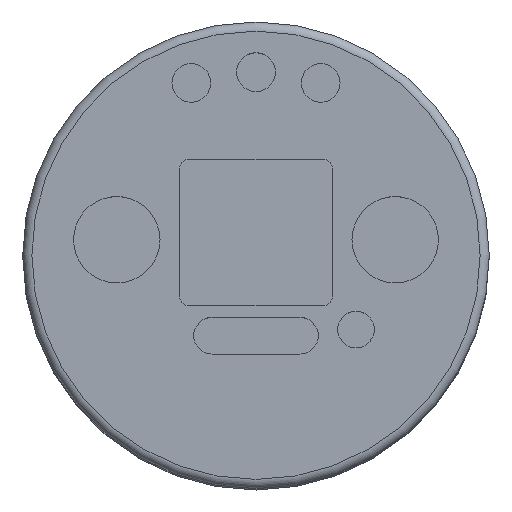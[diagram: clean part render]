
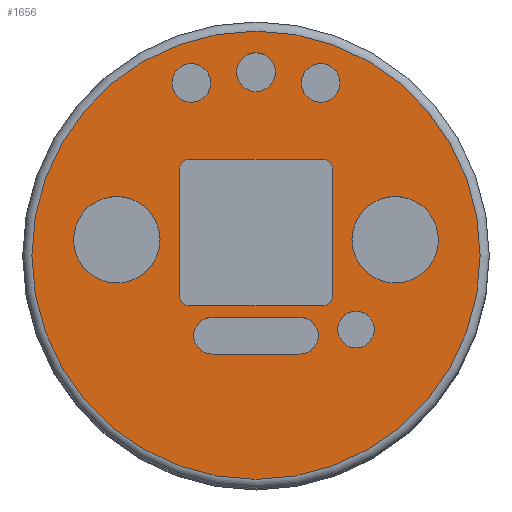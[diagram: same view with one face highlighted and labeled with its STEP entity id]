
A CAD part, top view. The second image highlights one B-rep face of the part: STEP entity #1656.
In plain terms, the highlighted planar face has unit normal (0, 0, 1).
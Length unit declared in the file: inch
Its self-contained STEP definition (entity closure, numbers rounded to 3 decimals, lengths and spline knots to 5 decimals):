
#38=FACE_BOUND('',#314,.T.);
#39=FACE_BOUND('',#315,.T.);
#40=FACE_BOUND('',#316,.T.);
#41=FACE_BOUND('',#317,.T.);
#42=FACE_BOUND('',#318,.T.);
#43=FACE_BOUND('',#319,.T.);
#44=FACE_BOUND('',#320,.T.);
#45=FACE_BOUND('',#321,.T.);
#96=PLANE('',#1825);
#199=FACE_OUTER_BOUND('',#313,.T.);
#313=EDGE_LOOP('',(#1455));
#314=EDGE_LOOP('',(#1456));
#315=EDGE_LOOP('',(#1457));
#316=EDGE_LOOP('',(#1458));
#317=EDGE_LOOP('',(#1459,#1460,#1461,#1462));
#318=EDGE_LOOP('',(#1463));
#319=EDGE_LOOP('',(#1464));
#320=EDGE_LOOP('',(#1465,#1466,#1467,#1468,#1469,#1470,#1471,#1472));
#321=EDGE_LOOP('',(#1473));
#376=CIRCLE('',#1792,0.1475);
#378=CIRCLE('',#1796,0.1475);
#381=CIRCLE('',#1801,0.03125);
#385=CIRCLE('',#1808,0.03125);
#386=CIRCLE('',#1810,0.03125);
#387=CIRCLE('',#1813,0.03125);
#393=CIRCLE('',#1823,0.76475);
#395=CIRCLE('',#1826,0.06603);
#396=CIRCLE('',#1827,0.0625);
#397=CIRCLE('',#1828,0.0625);
#398=CIRCLE('',#1829,0.0625);
#399=CIRCLE('',#1830,0.06603);
#400=CIRCLE('',#1831,0.06625);
#547=LINE('',#4349,#685);
#552=LINE('',#4363,#690);
#556=LINE('',#4393,#694);
#557=LINE('',#4396,#695);
#558=LINE('',#4401,#696);
#559=LINE('',#4402,#697);
#685=VECTOR('',#2210,0.3937);
#690=VECTOR('',#2225,0.3937);
#694=VECTOR('',#2261,0.3937);
#695=VECTOR('',#2264,0.3937);
#696=VECTOR('',#2269,0.3937);
#697=VECTOR('',#2270,0.3937);
#813=VERTEX_POINT('',#4311);
#815=VERTEX_POINT('',#4318);
#819=VERTEX_POINT('',#4328);
#820=VERTEX_POINT('',#4330);
#827=VERTEX_POINT('',#4348);
#828=VERTEX_POINT('',#4352);
#829=VERTEX_POINT('',#4356);
#830=VERTEX_POINT('',#4358);
#831=VERTEX_POINT('',#4362);
#832=VERTEX_POINT('',#4366);
#837=VERTEX_POINT('',#4383);
#838=VERTEX_POINT('',#4387);
#839=VERTEX_POINT('',#4389);
#840=VERTEX_POINT('',#4390);
#841=VERTEX_POINT('',#4392);
#842=VERTEX_POINT('',#4394);
#843=VERTEX_POINT('',#4397);
#844=VERTEX_POINT('',#4399);
#845=VERTEX_POINT('',#4403);
#1016=EDGE_CURVE('',#813,#813,#376,.T.);
#1019=EDGE_CURVE('',#815,#815,#378,.T.);
#1024=EDGE_CURVE('',#819,#820,#381,.T.);
#1033=EDGE_CURVE('',#827,#820,#547,.T.);
#1035=EDGE_CURVE('',#827,#828,#385,.T.);
#1038=EDGE_CURVE('',#829,#830,#386,.T.);
#1040=EDGE_CURVE('',#831,#830,#552,.T.);
#1042=EDGE_CURVE('',#831,#832,#387,.T.);
#1050=EDGE_CURVE('',#837,#837,#393,.T.);
#1052=EDGE_CURVE('',#838,#838,#395,.T.);
#1053=EDGE_CURVE('',#839,#840,#396,.T.);
#1054=EDGE_CURVE('',#840,#841,#556,.T.);
#1055=EDGE_CURVE('',#841,#842,#397,.T.);
#1056=EDGE_CURVE('',#842,#839,#557,.T.);
#1057=EDGE_CURVE('',#843,#843,#398,.T.);
#1058=EDGE_CURVE('',#844,#844,#399,.T.);
#1059=EDGE_CURVE('',#829,#828,#558,.T.);
#1060=EDGE_CURVE('',#819,#832,#559,.T.);
#1061=EDGE_CURVE('',#845,#845,#400,.T.);
#1455=ORIENTED_EDGE('',*,*,#1050,.F.);
#1456=ORIENTED_EDGE('',*,*,#1016,.T.);
#1457=ORIENTED_EDGE('',*,*,#1019,.T.);
#1458=ORIENTED_EDGE('',*,*,#1052,.T.);
#1459=ORIENTED_EDGE('',*,*,#1053,.T.);
#1460=ORIENTED_EDGE('',*,*,#1054,.T.);
#1461=ORIENTED_EDGE('',*,*,#1055,.T.);
#1462=ORIENTED_EDGE('',*,*,#1056,.T.);
#1463=ORIENTED_EDGE('',*,*,#1057,.T.);
#1464=ORIENTED_EDGE('',*,*,#1058,.T.);
#1465=ORIENTED_EDGE('',*,*,#1059,.T.);
#1466=ORIENTED_EDGE('',*,*,#1035,.F.);
#1467=ORIENTED_EDGE('',*,*,#1033,.T.);
#1468=ORIENTED_EDGE('',*,*,#1024,.F.);
#1469=ORIENTED_EDGE('',*,*,#1060,.T.);
#1470=ORIENTED_EDGE('',*,*,#1042,.F.);
#1471=ORIENTED_EDGE('',*,*,#1040,.T.);
#1472=ORIENTED_EDGE('',*,*,#1038,.F.);
#1473=ORIENTED_EDGE('',*,*,#1061,.T.);
#1656=ADVANCED_FACE('',(#199,#38,#39,#40,#41,#42,#43,#44,#45),#96,.T.);
#1792=AXIS2_PLACEMENT_3D('',#4312,#2172,#2173);
#1796=AXIS2_PLACEMENT_3D('',#4319,#2181,#2182);
#1801=AXIS2_PLACEMENT_3D('',#4331,#2193,#2194);
#1808=AXIS2_PLACEMENT_3D('',#4353,#2214,#2215);
#1810=AXIS2_PLACEMENT_3D('',#4359,#2220,#2221);
#1813=AXIS2_PLACEMENT_3D('',#4367,#2229,#2230);
#1823=AXIS2_PLACEMENT_3D('',#4384,#2251,#2252);
#1825=AXIS2_PLACEMENT_3D('',#4386,#2255,#2256);
#1826=AXIS2_PLACEMENT_3D('',#4388,#2257,#2258);
#1827=AXIS2_PLACEMENT_3D('',#4391,#2259,#2260);
#1828=AXIS2_PLACEMENT_3D('',#4395,#2262,#2263);
#1829=AXIS2_PLACEMENT_3D('',#4398,#2265,#2266);
#1830=AXIS2_PLACEMENT_3D('',#4400,#2267,#2268);
#1831=AXIS2_PLACEMENT_3D('',#4404,#2271,#2272);
#2172=DIRECTION('center_axis',(0.,0.,-1.));
#2173=DIRECTION('ref_axis',(-1.,0.,0.));
#2181=DIRECTION('center_axis',(0.,0.,-1.));
#2182=DIRECTION('ref_axis',(-1.,0.,0.));
#2193=DIRECTION('center_axis',(0.,0.,1.));
#2194=DIRECTION('ref_axis',(-0.707,-0.707,0.));
#2210=DIRECTION('',(-1.,0.,0.));
#2214=DIRECTION('center_axis',(0.,0.,1.));
#2215=DIRECTION('ref_axis',(0.707,-0.707,0.));
#2220=DIRECTION('center_axis',(0.,0.,1.));
#2221=DIRECTION('ref_axis',(0.707,0.707,0.));
#2225=DIRECTION('',(1.,0.,0.));
#2229=DIRECTION('center_axis',(0.,0.,1.));
#2230=DIRECTION('ref_axis',(-0.707,0.707,0.));
#2251=DIRECTION('center_axis',(0.,0.,-1.));
#2252=DIRECTION('ref_axis',(1.,0.,0.));
#2255=DIRECTION('center_axis',(0.,0.,1.));
#2256=DIRECTION('ref_axis',(1.,0.,0.));
#2257=DIRECTION('center_axis',(0.,0.,-1.));
#2258=DIRECTION('ref_axis',(1.,0.,0.));
#2259=DIRECTION('center_axis',(0.,0.,-1.));
#2260=DIRECTION('ref_axis',(0.,1.,0.));
#2261=DIRECTION('',(1.,0.,0.));
#2262=DIRECTION('center_axis',(0.,0.,-1.));
#2263=DIRECTION('ref_axis',(0.,-1.,0.));
#2264=DIRECTION('',(-1.,0.,0.));
#2265=DIRECTION('center_axis',(0.,0.,-1.));
#2266=DIRECTION('ref_axis',(1.,0.,0.));
#2267=DIRECTION('center_axis',(0.,0.,-1.));
#2268=DIRECTION('ref_axis',(1.,0.,0.));
#2269=DIRECTION('',(0.,-1.,0.));
#2270=DIRECTION('',(0.,1.,0.));
#2271=DIRECTION('center_axis',(0.,0.,-1.));
#2272=DIRECTION('ref_axis',(1.,0.,0.));
#4311=CARTESIAN_POINT('',(-0.3275,0.053,0.65));
#4312=CARTESIAN_POINT('Origin',(-0.475,0.053,0.65));
#4318=CARTESIAN_POINT('',(0.6225,0.053,0.65));
#4319=CARTESIAN_POINT('Origin',(0.475,0.053,0.65));
#4328=CARTESIAN_POINT('',(-0.26,-0.14075,0.65));
#4330=CARTESIAN_POINT('',(-0.22875,-0.172,0.65));
#4331=CARTESIAN_POINT('Origin',(-0.22875,-0.14075,0.65));
#4348=CARTESIAN_POINT('',(0.22875,-0.172,0.65));
#4349=CARTESIAN_POINT('',(-0.26,-0.172,0.65));
#4352=CARTESIAN_POINT('',(0.26,-0.14075,0.65));
#4353=CARTESIAN_POINT('Origin',(0.22875,-0.14075,0.65));
#4356=CARTESIAN_POINT('',(0.26,0.29675,0.65));
#4358=CARTESIAN_POINT('',(0.22875,0.328,0.65));
#4359=CARTESIAN_POINT('Origin',(0.22875,0.29675,0.65));
#4362=CARTESIAN_POINT('',(-0.22875,0.328,0.65));
#4363=CARTESIAN_POINT('',(0.26,0.328,0.65));
#4366=CARTESIAN_POINT('',(-0.26,0.29675,0.65));
#4367=CARTESIAN_POINT('Origin',(-0.22875,0.29675,0.65));
#4383=CARTESIAN_POINT('',(-0.76475,0.,0.65));
#4384=CARTESIAN_POINT('Origin',(0.,0.,0.65));
#4386=CARTESIAN_POINT('Origin',(0.,0.,0.65));
#4387=CARTESIAN_POINT('',(0.15479,0.58817,0.65));
#4388=CARTESIAN_POINT('Origin',(0.22082,0.58817,0.65));
#4389=CARTESIAN_POINT('',(-0.15,-0.337,0.65));
#4390=CARTESIAN_POINT('',(-0.15,-0.212,0.65));
#4391=CARTESIAN_POINT('Origin',(-0.15,-0.2745,0.65));
#4392=CARTESIAN_POINT('',(0.15,-0.212,0.65));
#4393=CARTESIAN_POINT('',(0.15,-0.212,0.65));
#4394=CARTESIAN_POINT('',(0.15,-0.337,0.65));
#4395=CARTESIAN_POINT('Origin',(0.15,-0.2745,0.65));
#4396=CARTESIAN_POINT('',(-0.15,-0.337,0.65));
#4397=CARTESIAN_POINT('',(0.27882,-0.25332,0.65));
#4398=CARTESIAN_POINT('Origin',(0.34132,-0.25332,0.65));
#4399=CARTESIAN_POINT('',(-0.28685,0.58817,0.65));
#4400=CARTESIAN_POINT('Origin',(-0.22082,0.58817,0.65));
#4401=CARTESIAN_POINT('',(0.26,-0.172,0.65));
#4402=CARTESIAN_POINT('',(-0.26,0.328,0.65));
#4403=CARTESIAN_POINT('',(-0.06625,0.62475,0.65));
#4404=CARTESIAN_POINT('Origin',(0.,0.62475,0.65));
